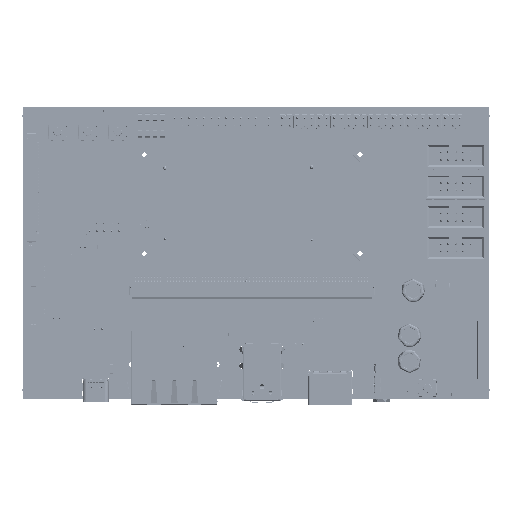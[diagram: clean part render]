
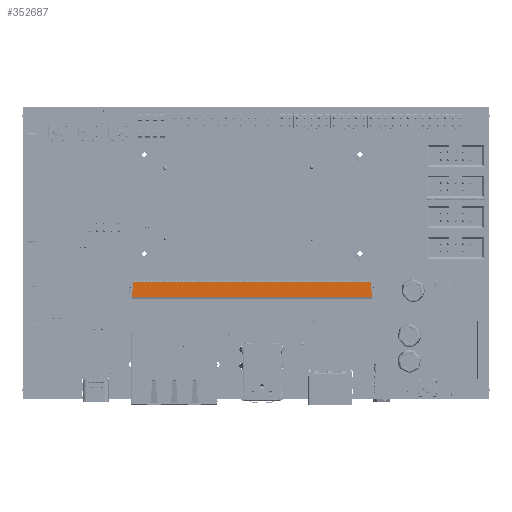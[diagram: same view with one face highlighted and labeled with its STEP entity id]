
A CAD part, top view. The second image highlights one B-rep face of the part: STEP entity #352687.
In plain terms, the highlighted planar face has unit normal (0, 0, 1).
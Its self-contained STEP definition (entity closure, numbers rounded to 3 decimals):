
#247056=FACE_OUTER_BOUND('',#270074,.T.);
#270074=EDGE_LOOP('',(#398558,#398559,#398560,#398561,#398562,#398563,#398564,
#398565,#398566));
#298884=AXIS2_PLACEMENT_3D('',#917752,#780220,#780221);
#332456=PLANE('',#298884);
#352687=ADVANCED_FACE('0:6199',(#247056),#332456,.T.);
#398558=ORIENTED_EDGE('',*,*,#529280,.T.);
#398559=ORIENTED_EDGE('',*,*,#529281,.T.);
#398560=ORIENTED_EDGE('',*,*,#529282,.F.);
#398561=ORIENTED_EDGE('',*,*,#529283,.F.);
#398562=ORIENTED_EDGE('',*,*,#529284,.F.);
#398563=ORIENTED_EDGE('',*,*,#529285,.F.);
#398564=ORIENTED_EDGE('',*,*,#529286,.T.);
#398565=ORIENTED_EDGE('',*,*,#529287,.T.);
#398566=ORIENTED_EDGE('',*,*,#529288,.T.);
#529280=EDGE_CURVE('0:42061',#722735,#722736,#661683,.T.);
#529281=EDGE_CURVE('0:42064',#722736,#722737,#661684,.T.);
#529282=EDGE_CURVE('0:42067',#722738,#722737,#661685,.T.);
#529283=EDGE_CURVE('0:42070',#722739,#722738,#661686,.T.);
#529284=EDGE_CURVE('0:42073',#722740,#722739,#661687,.T.);
#529285=EDGE_CURVE('0:42076',#722741,#722740,#661688,.T.);
#529286=EDGE_CURVE('0:42079',#722741,#722742,#661689,.T.);
#529287=EDGE_CURVE('0:42082',#722742,#722743,#661690,.T.);
#529288=EDGE_CURVE('0:42085',#722743,#722735,#661691,.T.);
#599475=VECTOR('',#797689,0.001);
#599476=VECTOR('',#797690,0.001);
#599477=VECTOR('',#797691,0.001);
#599478=VECTOR('',#797692,0.001);
#599479=VECTOR('',#797693,0.001);
#599480=VECTOR('',#797694,0.001);
#599481=VECTOR('',#797695,0.001);
#599482=VECTOR('',#797696,0.001);
#599483=VECTOR('',#797697,0.001);
#661683=LINE('',#935556,#599475);
#661684=LINE('',#935558,#599476);
#661685=LINE('',#935560,#599477);
#661686=LINE('',#935562,#599478);
#661687=LINE('',#935564,#599479);
#661688=LINE('',#935566,#599480);
#661689=LINE('',#935568,#599481);
#661690=LINE('',#935570,#599482);
#661691=LINE('',#935571,#599483);
#722735=VERTEX_POINT('NONE',#935554);
#722736=VERTEX_POINT('NONE',#935555);
#722737=VERTEX_POINT('NONE',#935557);
#722738=VERTEX_POINT('NONE',#935559);
#722739=VERTEX_POINT('NONE',#935561);
#722740=VERTEX_POINT('NONE',#935563);
#722741=VERTEX_POINT('NONE',#935565);
#722742=VERTEX_POINT('NONE',#935567);
#722743=VERTEX_POINT('NONE',#935569);
#780220=DIRECTION('',(0.,0.,1.));
#780221=DIRECTION('',(-1.,0.,0.));
#797689=DIRECTION('',(-1.,0.,0.));
#797690=DIRECTION('',(0.,-1.,0.));
#797691=DIRECTION('',(-1.,0.,0.));
#797692=DIRECTION('',(0.,-1.,0.));
#797693=DIRECTION('',(1.,0.,0.));
#797694=DIRECTION('',(0.,-1.,0.));
#797695=DIRECTION('',(-1.,0.,0.));
#797696=DIRECTION('',(-1.,0.,0.));
#797697=DIRECTION('',(0.,-1.,0.));
#917752=CARTESIAN_POINT('',(327.156,104.057,46.63));
#935554=CARTESIAN_POINT('',(245.196,106.057,46.63));
#935555=CARTESIAN_POINT('',(244.896,106.057,46.63));
#935556=CARTESIAN_POINT('',(245.196,106.057,46.63));
#935557=CARTESIAN_POINT('',(244.896,104.057,46.63));
#935558=CARTESIAN_POINT('',(244.896,102.857,46.63));
#935559=CARTESIAN_POINT('',(327.156,104.057,46.63));
#935560=CARTESIAN_POINT('',(327.156,104.057,46.63));
#935561=CARTESIAN_POINT('',(327.156,106.057,46.63));
#935562=CARTESIAN_POINT('',(327.156,102.857,46.63));
#935563=CARTESIAN_POINT('',(326.856,106.057,46.63));
#935564=CARTESIAN_POINT('',(326.856,106.057,46.63));
#935565=CARTESIAN_POINT('',(326.856,109.397,46.63));
#935566=CARTESIAN_POINT('',(326.856,112.653,46.63));
#935567=CARTESIAN_POINT('',(284.026,109.397,46.63));
#935568=CARTESIAN_POINT('',(327.156,109.397,46.63));
#935569=CARTESIAN_POINT('',(245.196,109.397,46.63));
#935570=CARTESIAN_POINT('',(327.156,109.397,46.63));
#935571=CARTESIAN_POINT('',(245.196,112.653,46.63));
